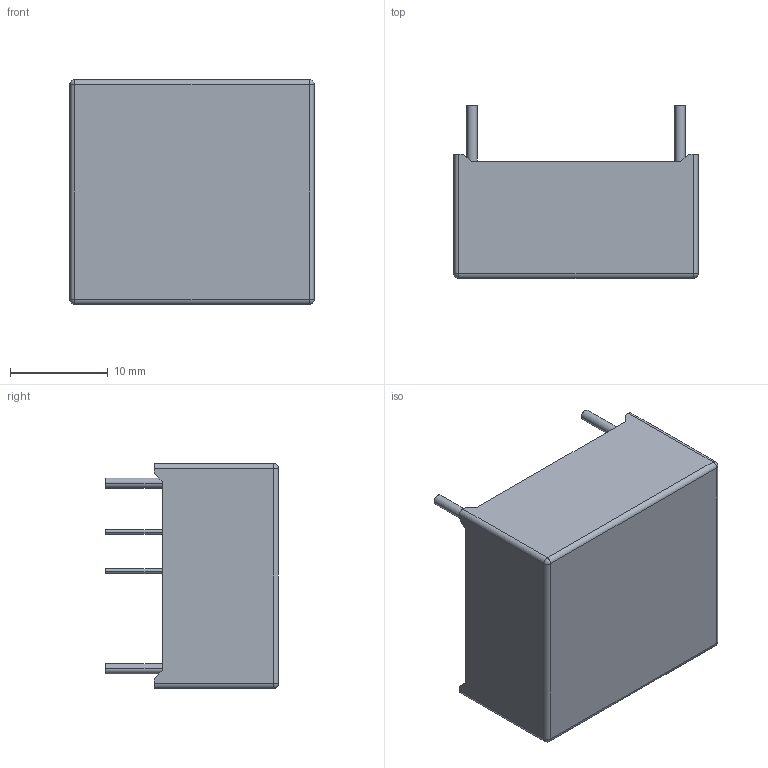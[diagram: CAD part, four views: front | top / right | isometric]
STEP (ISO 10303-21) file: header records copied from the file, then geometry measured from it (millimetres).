
FILE_DESCRIPTION((''),'2;1');
FILE_NAME('TFMOV20S511L-IT-5-001','2020-08-11T',('SET-01114'),(''),'PRO/ENGINEER BY PARAMETRIC TECHNOLOGY CORPORATION, 2012310','PRO/ENGINEER BY PARAMETRIC TECHNOLOGY CORPORATION, 2012310','');
FILE_SCHEMA(('CONFIG_CONTROL_DESIGN','SHAPE_APPEARANCE_LAYERS_GROUPS'));
Length unit declared in the file: millimetre
Products named in the file (1): TFMOV20S511L-IT-5-001
Bounding box: 25 x 17.7 x 23 mm (x, y, z)
Volume: 2092.7 mm3; surface area: 4189.6 mm2
Topology: 1 solids, 2 shells, 111 faces, 286 edges, 176 vertices
Faces by surface type: plane 61, cylinder 34, sphere 16
Entity records: 4177 total; most frequent: CARTESIAN_POINT 616, DIRECTION 576, ORIENTED_EDGE 540, PRESENTATION_STYLE_ASSIGNMENT 271, STYLED_ITEM 271, CURVE_STYLE 270, EDGE_CURVE 270, AXIS2_PLACEMENT_3D 199
